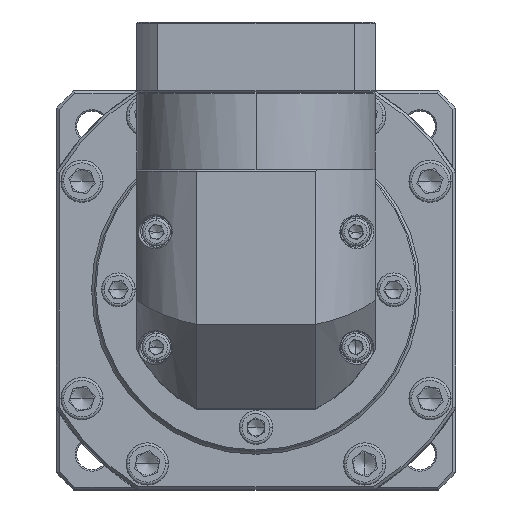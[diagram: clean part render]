
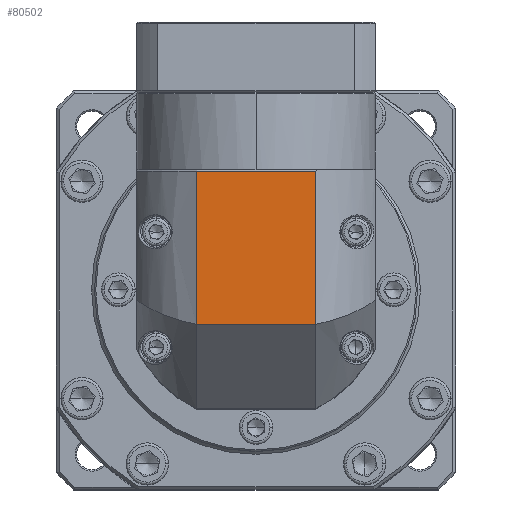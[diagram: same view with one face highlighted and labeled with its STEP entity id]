
A CAD part, top view. The second image highlights one B-rep face of the part: STEP entity #80502.
In plain terms, the highlighted planar face has unit normal (0, 0, 1).
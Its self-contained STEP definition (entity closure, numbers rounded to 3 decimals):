
#5504 = LINE ( 'NONE', #62465, #119342 ) ;
#6650 = PLANE ( 'NONE',  #129929 ) ;
#9541 = CARTESIAN_POINT ( 'NONE',  ( -139.349, 78.72, 42.96 ) ) ;
#13846 = ORIENTED_EDGE ( 'NONE', *, *, #90890, .F. ) ;
#13924 = CARTESIAN_POINT ( 'NONE',  ( -118.136, 133.22, 42.96 ) ) ;
#20836 = EDGE_LOOP ( 'NONE', ( #31645, #23797, #13846, #97254 ) ) ;
#23797 = ORIENTED_EDGE ( 'NONE', *, *, #104546, .F. ) ;
#30243 = DIRECTION ( 'NONE',  ( 0., 1., 0. ) ) ;
#31044 = LINE ( 'NONE', #9541, #93173 ) ;
#31124 = CARTESIAN_POINT ( 'NONE',  ( -118.136, 78.72, 42.96 ) ) ;
#31645 = ORIENTED_EDGE ( 'NONE', *, *, #68272, .F. ) ;
#42087 = CARTESIAN_POINT ( 'NONE',  ( -118.136, 33.22, 42.96 ) ) ;
#62045 = FACE_OUTER_BOUND ( 'NONE', #20836, .T. ) ;
#62465 = CARTESIAN_POINT ( 'NONE',  ( -160.563, 33.22, 42.96 ) ) ;
#63916 = DIRECTION ( 'NONE',  ( 0., -1., 0. ) ) ;
#64757 = EDGE_CURVE ( 'NONE', #135706, #131717, #127702, .T. ) ;
#68272 = EDGE_CURVE ( 'NONE', #112716, #131717, #5504, .T. ) ;
#69247 = DIRECTION ( 'NONE',  ( -1., 0., 0. ) ) ;
#76129 = DIRECTION ( 'NONE',  ( 0., 1., 0. ) ) ;
#80502 = ADVANCED_FACE ( 'NONE', ( #62045 ), #6650, .T. ) ;
#86135 = DIRECTION ( 'NONE',  ( 0., 0., 1. ) ) ;
#87723 = VECTOR ( 'NONE', #63916, 1000. ) ;
#90890 = EDGE_CURVE ( 'NONE', #135706, #103923, #94844, .T. ) ;
#91703 = CARTESIAN_POINT ( 'NONE',  ( -139.349, 133.22, 42.96 ) ) ;
#93173 = VECTOR ( 'NONE', #111437, 1000. ) ;
#94844 = LINE ( 'NONE', #42087, #87723 ) ;
#97254 = ORIENTED_EDGE ( 'NONE', *, *, #64757, .T. ) ;
#103923 = VERTEX_POINT ( 'NONE', #31124 ) ;
#104546 = EDGE_CURVE ( 'NONE', #103923, #112716, #31044, .T. ) ;
#106216 = CARTESIAN_POINT ( 'NONE',  ( -160.563, 133.22, 42.96 ) ) ;
#111437 = DIRECTION ( 'NONE',  ( -1., 0., 0. ) ) ;
#112716 = VERTEX_POINT ( 'NONE', #141567 ) ;
#118838 = VECTOR ( 'NONE', #69247, 1000. ) ;
#119342 = VECTOR ( 'NONE', #30243, 1000. ) ;
#127702 = LINE ( 'NONE', #91703, #118838 ) ;
#129929 = AXIS2_PLACEMENT_3D ( 'NONE', #143421, #86135, #76129 ) ;
#131717 = VERTEX_POINT ( 'NONE', #106216 ) ;
#135706 = VERTEX_POINT ( 'NONE', #13924 ) ;
#141567 = CARTESIAN_POINT ( 'NONE',  ( -160.563, 78.72, 42.96 ) ) ;
#143421 = CARTESIAN_POINT ( 'NONE',  ( -139.349, 91.22, 42.96 ) ) ;
